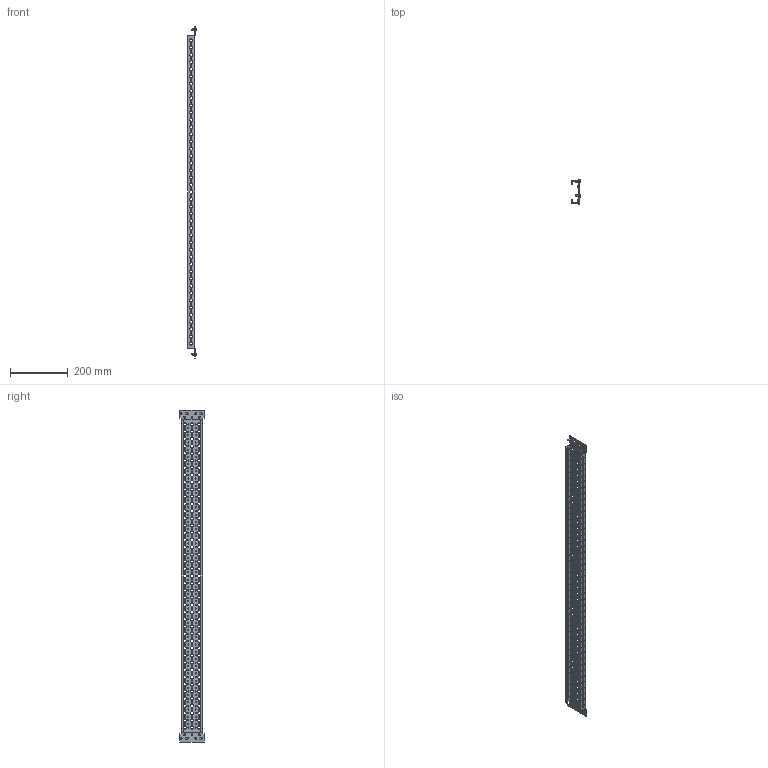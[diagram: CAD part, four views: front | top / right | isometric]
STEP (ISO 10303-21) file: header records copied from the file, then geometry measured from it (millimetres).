
FILE_DESCRIPTION(('Open CASCADE Model'),'2;1');
FILE_NAME('Open CASCADE Shape Model','2025-02-24T09:58:30',('Author'),( 'Open CASCADE'),'Open CASCADE STEP processor 7.8','Open CASCADE 7.8' ,'Unknown');
FILE_SCHEMA(('AUTOMOTIVE_DESIGN { 1 0 10303 214 1 1 1 1 }'));
Length unit declared in the file: millimetre
Products named in the file (3): Compound1; Solid1; Solid2
Assembly tree (5 placements, depth 2):
  Compound1
    Solid1
    Solid2  x4
Bounding box: 30.36 x 85 x 1150.04 mm (x, y, z)
Volume: 189585.4 mm3; surface area: 277889.7 mm2
Topology: 5 solids, 5 shells, 4068 faces, 12103 edges, 8049 vertices
Faces by surface type: cylinder 2556, plane 1488, torus 8, cone 8, sphere 4, bspline 4
Full cylindrical faces by diameter (mm): 4.2 x380, 5 x4, 6.5 x10, 9.5 x4
Entity records: 139830 total; most frequent: CARTESIAN_POINT 24798, DIRECTION 24780, ORIENTED_EDGE 24024, EDGE_CURVE 12012, AXIS2_PLACEMENT_3D 9148, VERTEX_POINT 7998, LINE 6484, VECTOR 6484
